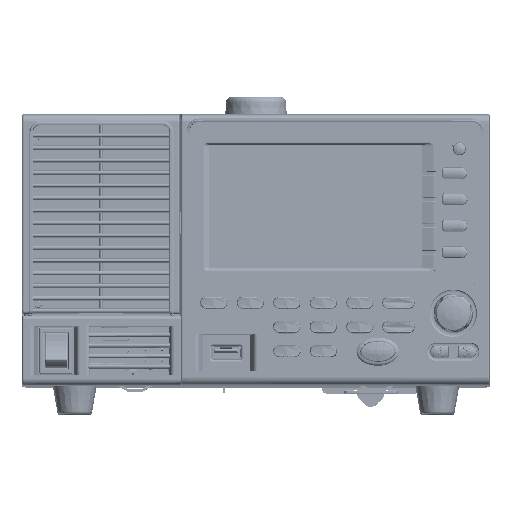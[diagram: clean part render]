
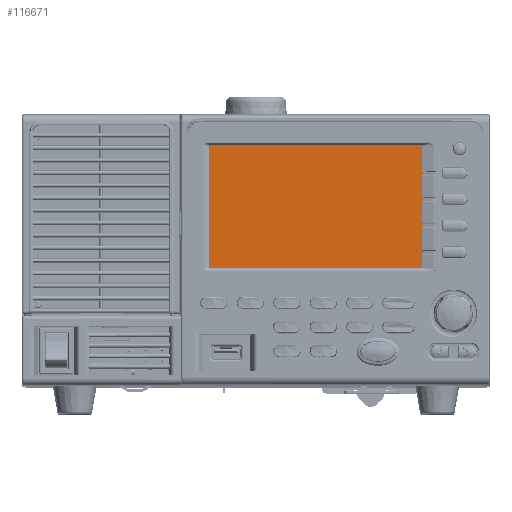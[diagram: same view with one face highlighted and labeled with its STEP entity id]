
A CAD part, top view. The second image highlights one B-rep face of the part: STEP entity #116671.
In plain terms, the highlighted planar face has unit normal (0, 0, 1).
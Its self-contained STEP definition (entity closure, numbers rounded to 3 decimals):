
#116556=DIRECTION('',(0.,-1.,0.));
#116557=VECTOR('',#116556,63.);
#116558=CARTESIAN_POINT('',(-52.,31.5,1.1));
#116559=LINE('',#116558,#116557);
#116560=DIRECTION('',(-1.,0.,0.));
#116561=VECTOR('',#116560,104.);
#116562=CARTESIAN_POINT('',(52.,31.5,1.1));
#116563=LINE('',#116562,#116561);
#116564=DIRECTION('',(0.,1.,0.));
#116565=VECTOR('',#116564,63.);
#116566=CARTESIAN_POINT('',(52.,-31.5,1.1));
#116567=LINE('',#116566,#116565);
#116568=DIRECTION('',(1.,0.,0.));
#116569=VECTOR('',#116568,104.);
#116570=CARTESIAN_POINT('',(-52.,-31.5,1.1));
#116571=LINE('',#116570,#116569);
#116580=CARTESIAN_POINT('',(-52.,31.5,1.1));
#116581=CARTESIAN_POINT('',(-52.,-31.5,1.1));
#116582=VERTEX_POINT('',#116580);
#116583=VERTEX_POINT('',#116581);
#116584=CARTESIAN_POINT('',(52.,-31.5,1.1));
#116585=VERTEX_POINT('',#116584);
#116586=CARTESIAN_POINT('',(52.,31.5,1.1));
#116587=VERTEX_POINT('',#116586);
#116660=CARTESIAN_POINT('',(0.,0.,1.1));
#116661=DIRECTION('',(0.,0.,1.));
#116662=DIRECTION('',(1.,0.,0.));
#116663=AXIS2_PLACEMENT_3D('',#116660,#116661,#116662);
#116664=PLANE('',#116663);
#116665=ORIENTED_EDGE('',*,*,#116612,.F.);
#116666=ORIENTED_EDGE('',*,*,#116627,.F.);
#116667=ORIENTED_EDGE('',*,*,#116641,.F.);
#116668=ORIENTED_EDGE('',*,*,#116654,.F.);
#116669=EDGE_LOOP('',(#116665,#116666,#116667,#116668));
#116670=FACE_OUTER_BOUND('',#116669,.F.);
#116671=ADVANCED_FACE('',(#116670),#116664,.T.);
#116612=EDGE_CURVE('',#116582,#116583,#116559,.T.);
#116627=EDGE_CURVE('',#116587,#116582,#116563,.T.);
#116641=EDGE_CURVE('',#116585,#116587,#116567,.T.);
#116654=EDGE_CURVE('',#116583,#116585,#116571,.T.);
